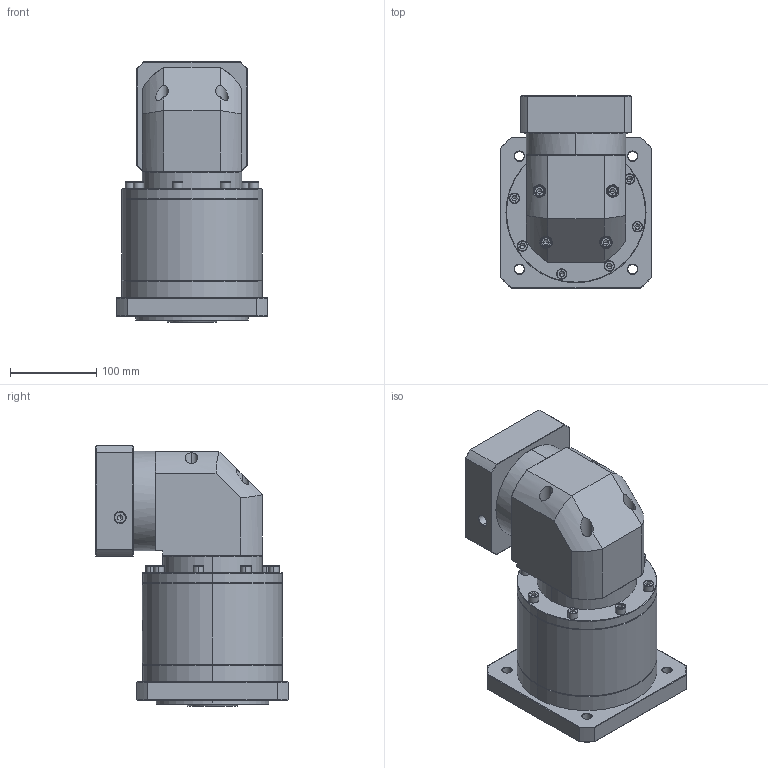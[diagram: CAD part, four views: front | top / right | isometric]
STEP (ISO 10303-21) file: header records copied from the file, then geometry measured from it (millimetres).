
FILE_DESCRIPTION (( 'STEP AP214' ), '1' );
FILE_NAME ('ZFR160A-K35-L3-P2-24-110-145-M8.step', '2023-09-03T09:46:09', ( '' ), ( '' ), 'SwSTEP 2.0', 'SolidWorks 2016', '' );
FILE_SCHEMA (( 'AUTOMOTIVE_DESIGN' ));
Length unit declared in the file: millimetre
Products named in the file (1): ZFR160A-K35-L3-P2-24-110-145-M8
Bounding box: 175 x 222.4 x 301.2 mm (x, y, z)
Volume: 5565776.2 mm3; surface area: 360750.4 mm2
Topology: 6 solids, 6 shells, 2413 faces, 6324 edges, 4037 vertices
Faces by surface type: plane 1139, cylinder 462, bspline 403, cone 365, torus 44
Entity records: 126420 total; most frequent: CARTESIAN_POINT 45578, ORIENTED_EDGE 12544, DIRECTION 9566, EDGE_CURVE 6272, VERTEX_POINT 4037, LINE 3384, VECTOR 3384, AXIS2_PLACEMENT_3D 3091
